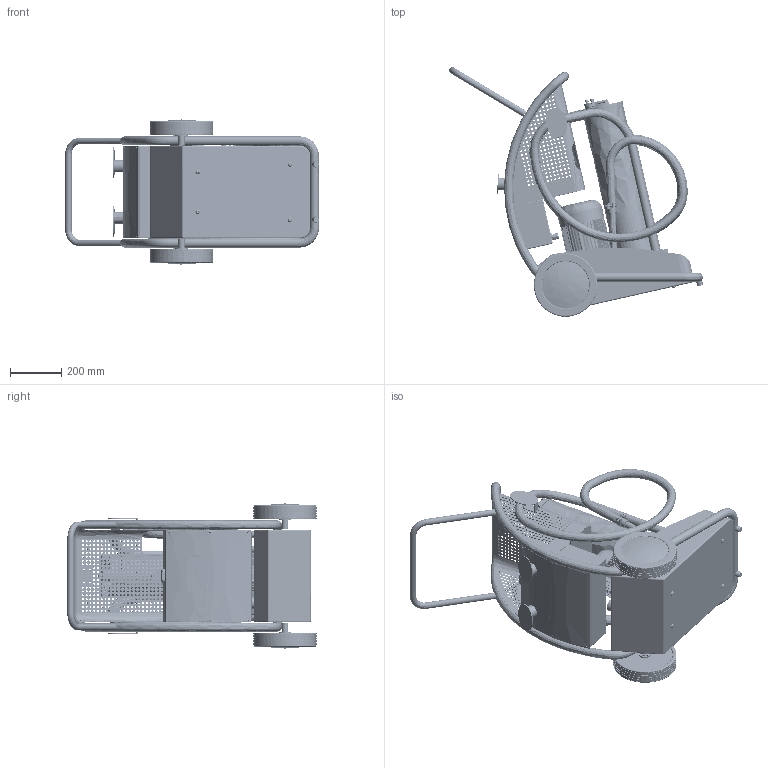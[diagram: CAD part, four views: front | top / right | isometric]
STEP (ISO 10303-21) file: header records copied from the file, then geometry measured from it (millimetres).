
FILE_DESCRIPTION((''),'2;1');
FILE_NAME('U:\Users\a.heinl\UM045_1553.stp','2013-07-30T15:01:16',( 'User'),('SDRC'),'I-DEAS Master Series 9','UNIX','Yes');
FILE_SCHEMA(('AUTOMOTIVE_DESIGN { 1 0 10303 214 1 1 1 1 }'));
Length unit declared in the file: millimetre
Products named in the file (1): 13517301(323640)
Bounding box: 985.78 x 968.93 x 563.6 mm (x, y, z)
Volume: 38700966 mm3; surface area: 5929193.3 mm2
Topology: 10 solids, 72 shells, 4130 faces, 10410 edges, 6560 vertices
Faces by surface type: bspline 4130
Entity records: 161296 total; most frequent: CARTESIAN_POINT 100330, ORIENTED_EDGE 20624, EDGE_CURVE 10312, VERTEX_POINT 6560, EDGE_LOOP 6214, FACE_OUTER_BOUND 4130, ADVANCED_FACE 4130, B_SPLINE_CURVE_WITH_KNOTS 3872
